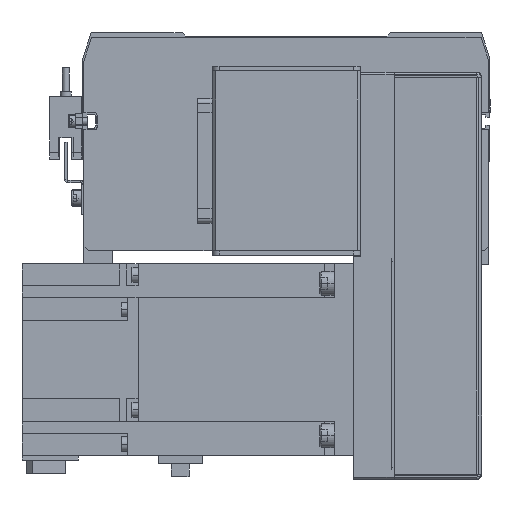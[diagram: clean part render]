
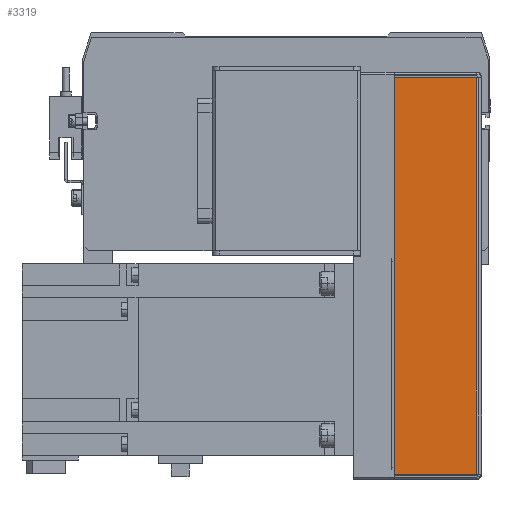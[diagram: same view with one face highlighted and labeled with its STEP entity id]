
A CAD part, front view. The second image highlights one B-rep face of the part: STEP entity #3319.
In plain terms, the highlighted planar face has unit normal (0, -1, 0).
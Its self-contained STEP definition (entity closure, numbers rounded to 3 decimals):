
#395 = VECTOR ( 'NONE', #25374, 1000. ) ;
#877 = LINE ( 'NONE', #19223, #395 ) ;
#3003 = CARTESIAN_POINT ( 'NONE',  ( -67.862, -45.778, 211.263 ) ) ;
#3319 = ADVANCED_FACE ( 'NONE', ( #11570 ), #34282, .F. ) ;
#3375 = LINE ( 'NONE', #8036, #33024 ) ;
#3697 = CARTESIAN_POINT ( 'NONE',  ( 14.931, -45.778, 213.5 ) ) ;
#4609 = EDGE_CURVE ( 'NONE', #39449, #26801, #3375, .T. ) ;
#5157 = CARTESIAN_POINT ( 'NONE',  ( -67.862, -45.778, 177. ) ) ;
#6015 = EDGE_CURVE ( 'NONE', #25715, #7794, #12282, .T. ) ;
#7794 = VERTEX_POINT ( 'NONE', #5157 ) ;
#8036 = CARTESIAN_POINT ( 'NONE',  ( 97.724, -45.778, 212. ) ) ;
#10951 = DIRECTION ( 'NONE',  ( 0., 0., -1. ) ) ;
#11570 = FACE_OUTER_BOUND ( 'NONE', #35720, .T. ) ;
#12282 = LINE ( 'NONE', #14775, #28511 ) ;
#12856 = DIRECTION ( 'NONE',  ( 0., 0., 1. ) ) ;
#13054 = VECTOR ( 'NONE', #24459, 1000. ) ;
#13670 = AXIS2_PLACEMENT_3D ( 'NONE', #3697, #31441, #12856 ) ;
#13994 = LINE ( 'NONE', #21133, #13054 ) ;
#14775 = CARTESIAN_POINT ( 'NONE',  ( -67.862, -45.778, 213.5 ) ) ;
#15533 = EDGE_CURVE ( 'NONE', #25715, #39449, #877, .T. ) ;
#16307 = ORIENTED_EDGE ( 'NONE', *, *, #6015, .T. ) ;
#19223 = CARTESIAN_POINT ( 'NONE',  ( 99.931, -45.778, 211.263 ) ) ;
#19598 = CARTESIAN_POINT ( 'NONE',  ( 97.724, -45.778, 177. ) ) ;
#21133 = CARTESIAN_POINT ( 'NONE',  ( 14.931, -45.778, 177. ) ) ;
#21198 = CARTESIAN_POINT ( 'NONE',  ( 97.724, -45.778, 211.263 ) ) ;
#24459 = DIRECTION ( 'NONE',  ( 1., 0., 0. ) ) ;
#25374 = DIRECTION ( 'NONE',  ( 1., 0., 0. ) ) ;
#25715 = VERTEX_POINT ( 'NONE', #3003 ) ;
#26801 = VERTEX_POINT ( 'NONE', #19598 ) ;
#27087 = DIRECTION ( 'NONE',  ( 0., 0., -1. ) ) ;
#28511 = VECTOR ( 'NONE', #27087, 1000. ) ;
#30145 = ORIENTED_EDGE ( 'NONE', *, *, #15533, .F. ) ;
#31137 = ORIENTED_EDGE ( 'NONE', *, *, #35854, .T. ) ;
#31441 = DIRECTION ( 'NONE',  ( 0., 1., 0. ) ) ;
#33024 = VECTOR ( 'NONE', #10951, 1000. ) ;
#34282 = PLANE ( 'NONE',  #13670 ) ;
#35720 = EDGE_LOOP ( 'NONE', ( #38193, #30145, #16307, #31137 ) ) ;
#35854 = EDGE_CURVE ( 'NONE', #7794, #26801, #13994, .T. ) ;
#38193 = ORIENTED_EDGE ( 'NONE', *, *, #4609, .F. ) ;
#39449 = VERTEX_POINT ( 'NONE', #21198 ) ;
